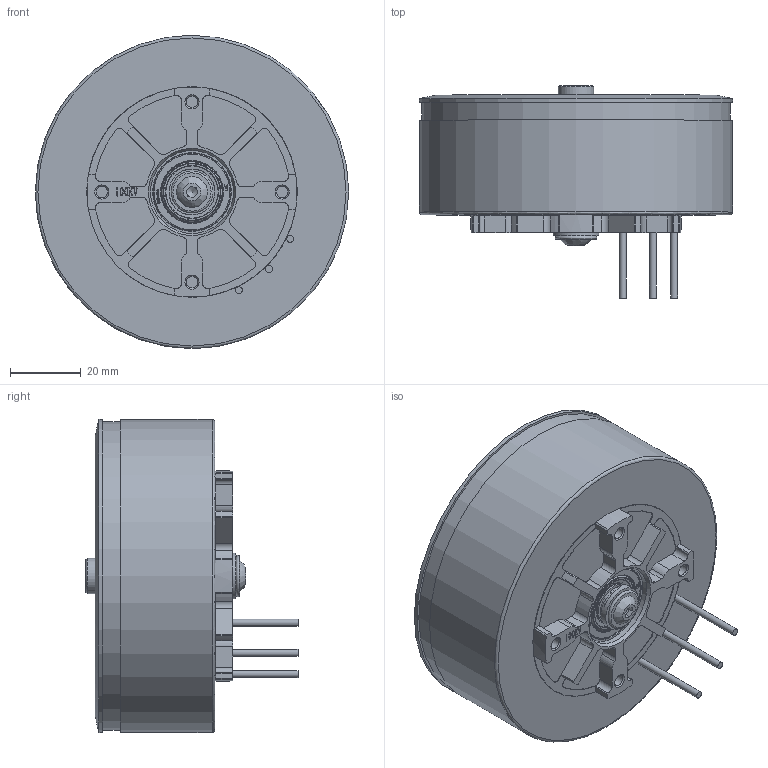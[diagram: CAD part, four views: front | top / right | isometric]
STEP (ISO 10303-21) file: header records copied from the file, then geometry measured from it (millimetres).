
FILE_DESCRIPTION (( 'STEP AP214' ), '1' );
FILE_NAME ('305300013AB-X8-8120-100KV.STEP', '2025-07-11T07:25:48', ( '' ), ( '' ), 'SwSTEP 2.0', 'SolidWorks 2021', '' );
FILE_SCHEMA (( 'AUTOMOTIVE_DESIGN' ));
Length unit declared in the file: millimetre
Products named in the file (1): 305300013AB-X8-8120-100KV
Bounding box: 88.6 x 60 x 88.6 mm (x, y, z)
Volume: 223686.5 mm3; surface area: 44676 mm2
Topology: 76 solids, 77 shells, 1254 faces, 3108 edges, 2037 vertices
Faces by surface type: plane 709, cylinder 396, bspline 45, cone 44, torus 40, sphere 20
Full cylindrical faces by diameter (mm): 0.321 x2, 0.451 x2, 1.3 x2, 2 x3, 2.5 x4, 3.3 x4, 4 x1, 4.2 x2, 7.6 x1, 7.8 x1, 8 x6, 10 x1, 10.5 x1, 12.083 x4, 12.2 x2, 12.667 x4, 13 x1, 14.8 x2, 15 x2, 17.333 x4, 17.8 x4, 22 x2, 23.5 x1, 59.5 x1, 87.2 x2, 88.6 x2
Entity records: 41744 total; most frequent: CARTESIAN_POINT 12049, DIRECTION 6089, ORIENTED_EDGE 5650, EDGE_CURVE 2825, AXIS2_PLACEMENT_3D 2164, VERTEX_POINT 1925, VECTOR 1761, LINE 1761
